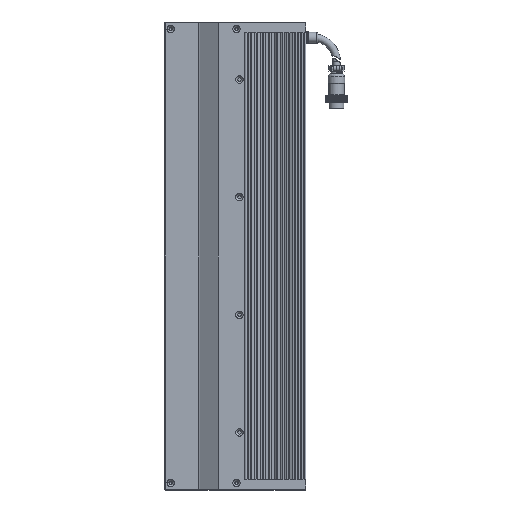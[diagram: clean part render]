
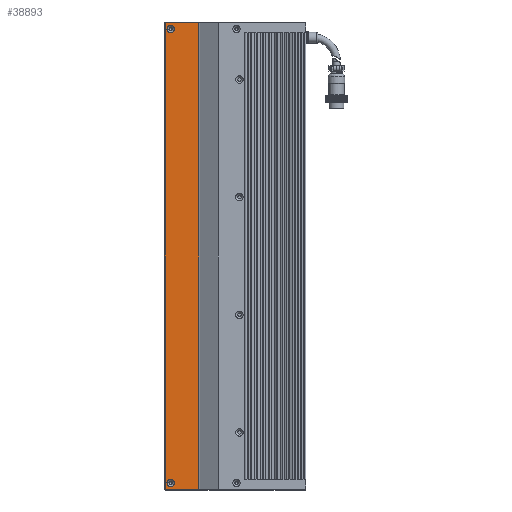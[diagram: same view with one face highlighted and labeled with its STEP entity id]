
A CAD part, left-side view. The second image highlights one B-rep face of the part: STEP entity #38893.
In plain terms, the highlighted planar face has unit normal (-1, 0, 0).
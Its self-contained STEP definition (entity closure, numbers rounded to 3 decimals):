
#5926 = FACE_OUTER_BOUND ( 'NONE', #70853, .T. ) ;
#7676 = CARTESIAN_POINT ( 'NONE',  ( -15.462, -6.987, 120. ) ) ;
#8065 = EDGE_LOOP ( 'NONE', ( #72480 ) ) ;
#11704 = LINE ( 'NONE', #110951, #32816 ) ;
#15634 = AXIS2_PLACEMENT_3D ( 'NONE', #61582, #22080, #51784 ) ;
#16037 = EDGE_LOOP ( 'NONE', ( #120260 ) ) ;
#17952 = ORIENTED_EDGE ( 'NONE', *, *, #121347, .F. ) ;
#17983 = CARTESIAN_POINT ( 'NONE',  ( -15.462, 21.439, 515.5 ) ) ;
#22080 = DIRECTION ( 'NONE',  ( 1., 0., 0. ) ) ;
#23317 = DIRECTION ( 'NONE',  ( 0., 1., 0. ) ) ;
#28330 = LINE ( 'NONE', #17983, #95172 ) ;
#28633 = VECTOR ( 'NONE', #23317, 1000. ) ;
#32816 = VECTOR ( 'NONE', #93090, 1000. ) ;
#37046 = EDGE_CURVE ( 'NONE', #56105, #56105, #50076, .T. ) ;
#38893 = ADVANCED_FACE ( 'NONE', ( #60552, #96963, #5926 ), #42010, .F. ) ;
#38981 = EDGE_CURVE ( 'NONE', #56724, #84904, #80229, .T. ) ;
#39090 = DIRECTION ( 'NONE',  ( 0., -1., 0. ) ) ;
#41517 = VECTOR ( 'NONE', #52534, 1000. ) ;
#42010 = PLANE ( 'NONE',  #15634 ) ;
#42418 = CARTESIAN_POINT ( 'NONE',  ( -15.462, 16.939, 128.65 ) ) ;
#44607 = CIRCLE ( 'NONE', #66947, 3.15 ) ;
#49601 = CARTESIAN_POINT ( 'NONE',  ( -15.462, -6.987, 517. ) ) ;
#50076 = CIRCLE ( 'NONE', #121150, 3.15 ) ;
#51784 = DIRECTION ( 'NONE',  ( 0., 0., -1. ) ) ;
#52534 = DIRECTION ( 'NONE',  ( 0., -1., 0. ) ) ;
#56105 = VERTEX_POINT ( 'NONE', #69595 ) ;
#56724 = VERTEX_POINT ( 'NONE', #7676 ) ;
#58610 = ORIENTED_EDGE ( 'NONE', *, *, #100853, .F. ) ;
#59484 = CARTESIAN_POINT ( 'NONE',  ( -15.462, 16.939, 511.5 ) ) ;
#60552 = FACE_BOUND ( 'NONE', #16037, .T. ) ;
#61582 = CARTESIAN_POINT ( 'NONE',  ( -15.462, -7.561, 515.5 ) ) ;
#62204 = VERTEX_POINT ( 'NONE', #42418 ) ;
#65224 = ORIENTED_EDGE ( 'NONE', *, *, #38981, .F. ) ;
#66947 = AXIS2_PLACEMENT_3D ( 'NONE', #76042, #115876, #95968 ) ;
#69595 = CARTESIAN_POINT ( 'NONE',  ( -15.462, 13.789, 511.5 ) ) ;
#70853 = EDGE_LOOP ( 'NONE', ( #58610, #65224, #80258, #17952 ) ) ;
#72480 = ORIENTED_EDGE ( 'NONE', *, *, #37046, .F. ) ;
#76042 = CARTESIAN_POINT ( 'NONE',  ( -15.462, 16.939, 125.5 ) ) ;
#77821 = LINE ( 'NONE', #119978, #41517 ) ;
#79872 = EDGE_CURVE ( 'NONE', #62204, #62204, #44607, .T. ) ;
#80229 = LINE ( 'NONE', #109496, #28633 ) ;
#80258 = ORIENTED_EDGE ( 'NONE', *, *, #114337, .F. ) ;
#84904 = VERTEX_POINT ( 'NONE', #109259 ) ;
#87057 = DIRECTION ( 'NONE',  ( -1., 0., 0. ) ) ;
#87286 = CARTESIAN_POINT ( 'NONE',  ( -15.462, 21.439, 517. ) ) ;
#93090 = DIRECTION ( 'NONE',  ( 0., 0., -1. ) ) ;
#95097 = VERTEX_POINT ( 'NONE', #87286 ) ;
#95172 = VECTOR ( 'NONE', #96866, 1000. ) ;
#95968 = DIRECTION ( 'NONE',  ( 0., 0., 1. ) ) ;
#96866 = DIRECTION ( 'NONE',  ( 0., 0., 1. ) ) ;
#96963 = FACE_BOUND ( 'NONE', #8065, .T. ) ;
#97833 = VERTEX_POINT ( 'NONE', #49601 ) ;
#100853 = EDGE_CURVE ( 'NONE', #84904, #95097, #28330, .T. ) ;
#109259 = CARTESIAN_POINT ( 'NONE',  ( -15.462, 21.439, 120. ) ) ;
#109496 = CARTESIAN_POINT ( 'NONE',  ( -15.462, -7.561, 120. ) ) ;
#110951 = CARTESIAN_POINT ( 'NONE',  ( -15.462, -6.987, 515.5 ) ) ;
#114337 = EDGE_CURVE ( 'NONE', #97833, #56724, #11704, .T. ) ;
#115876 = DIRECTION ( 'NONE',  ( -1., 0., 0. ) ) ;
#119978 = CARTESIAN_POINT ( 'NONE',  ( -15.462, -7.561, 517. ) ) ;
#120260 = ORIENTED_EDGE ( 'NONE', *, *, #79872, .F. ) ;
#121150 = AXIS2_PLACEMENT_3D ( 'NONE', #59484, #87057, #39090 ) ;
#121347 = EDGE_CURVE ( 'NONE', #95097, #97833, #77821, .T. ) ;
